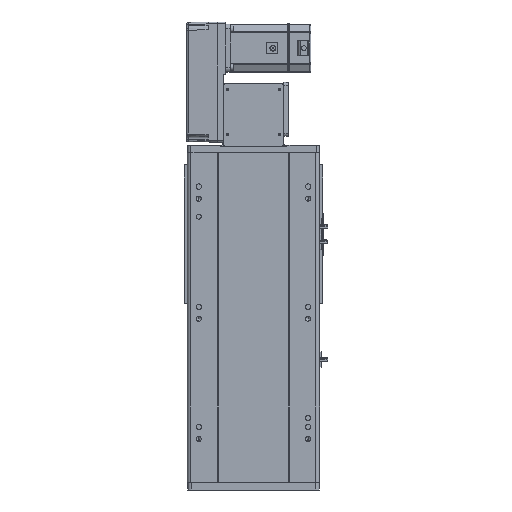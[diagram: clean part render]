
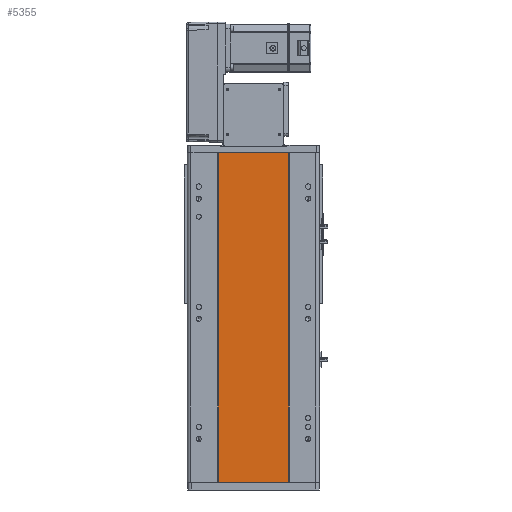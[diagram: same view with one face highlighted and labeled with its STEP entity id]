
A CAD part, front view. The second image highlights one B-rep face of the part: STEP entity #5355.
In plain terms, the highlighted planar face has unit normal (0, -1, 0).
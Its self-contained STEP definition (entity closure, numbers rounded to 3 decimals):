
#1771 = CARTESIAN_POINT ( 'NONE',  ( 59., 1., 274.5 ) ) ;
#3767 = DIRECTION ( 'NONE',  ( -1., 0., 0. ) ) ;
#4962 = AXIS2_PLACEMENT_3D ( 'NONE', #46010, #50102, #3767 ) ;
#5355 = ADVANCED_FACE ( 'NONE', ( #44752 ), #18797, .F. ) ;
#5577 = CARTESIAN_POINT ( 'NONE',  ( 59., 1., 274.5 ) ) ;
#7321 = VECTOR ( 'NONE', #16956, 1000. ) ;
#8631 = DIRECTION ( 'NONE',  ( 1., 0., 0. ) ) ;
#9752 = LINE ( 'NONE', #1771, #7321 ) ;
#9993 = EDGE_CURVE ( 'NONE', #38454, #40352, #9752, .T. ) ;
#10254 = ORIENTED_EDGE ( 'NONE', *, *, #38628, .T. ) ;
#12536 = CARTESIAN_POINT ( 'NONE',  ( -59., 1., 274.5 ) ) ;
#13051 = VECTOR ( 'NONE', #49190, 1000. ) ;
#13080 = VECTOR ( 'NONE', #8631, 1000. ) ;
#13460 = EDGE_CURVE ( 'NONE', #34640, #38454, #38530, .T. ) ;
#16956 = DIRECTION ( 'NONE',  ( 0., 0., -1. ) ) ;
#18559 = CARTESIAN_POINT ( 'NONE',  ( -59., 1., -274.5 ) ) ;
#18797 = PLANE ( 'NONE',  #4962 ) ;
#20032 = VERTEX_POINT ( 'NONE', #18559 ) ;
#20701 = ORIENTED_EDGE ( 'NONE', *, *, #9993, .F. ) ;
#24962 = CARTESIAN_POINT ( 'NONE',  ( 59., 1., -274.5 ) ) ;
#25698 = DIRECTION ( 'NONE',  ( 1., 0., 0. ) ) ;
#26860 = LINE ( 'NONE', #29790, #40872 ) ;
#29790 = CARTESIAN_POINT ( 'NONE',  ( -59., 1., -274.5 ) ) ;
#31251 = LINE ( 'NONE', #45282, #13051 ) ;
#34640 = VERTEX_POINT ( 'NONE', #48054 ) ;
#37899 = EDGE_LOOP ( 'NONE', ( #37992, #20701, #47548, #10254 ) ) ;
#37992 = ORIENTED_EDGE ( 'NONE', *, *, #47182, .T. ) ;
#38454 = VERTEX_POINT ( 'NONE', #5577 ) ;
#38530 = LINE ( 'NONE', #12536, #13080 ) ;
#38628 = EDGE_CURVE ( 'NONE', #34640, #20032, #31251, .T. ) ;
#40352 = VERTEX_POINT ( 'NONE', #24962 ) ;
#40872 = VECTOR ( 'NONE', #25698, 1000. ) ;
#44752 = FACE_OUTER_BOUND ( 'NONE', #37899, .T. ) ;
#45282 = CARTESIAN_POINT ( 'NONE',  ( -59., 1., 274.5 ) ) ;
#46010 = CARTESIAN_POINT ( 'NONE',  ( -59., 1., 274.5 ) ) ;
#47182 = EDGE_CURVE ( 'NONE', #20032, #40352, #26860, .T. ) ;
#47548 = ORIENTED_EDGE ( 'NONE', *, *, #13460, .F. ) ;
#48054 = CARTESIAN_POINT ( 'NONE',  ( -59., 1., 274.5 ) ) ;
#49190 = DIRECTION ( 'NONE',  ( 0., 0., -1. ) ) ;
#50102 = DIRECTION ( 'NONE',  ( 0., 1., 0. ) ) ;
